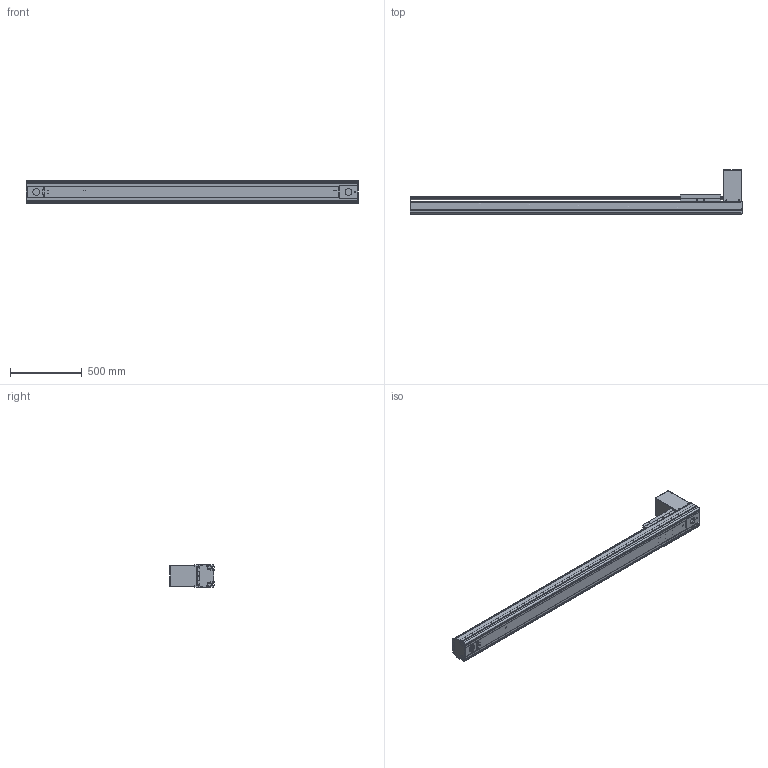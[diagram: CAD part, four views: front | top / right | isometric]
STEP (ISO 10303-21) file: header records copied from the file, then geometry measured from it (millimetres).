
FILE_DESCRIPTION((''),'2;1');
FILE_NAME('BE50G-BT-L19N-H5_IGS_PRT','2017-06-18T',(' '),(''),'PRO/ENGINEER BY PARAMETRIC TECHNOLOGY CORPORATION, 2015030','PRO/ENGINEER BY PARAMETRIC TECHNOLOGY CORPORATION, 2015030','');
FILE_SCHEMA(('CONFIG_CONTROL_DESIGN'));
Products named in the file (1): BE50G-BT-L19N-H5_IGS_PRT
Bounding box: 2320 x 309 x 160 mm (x, y, z)
Volume: 9051752.8 mm3; surface area: 4139166.5 mm2
Topology: 9 solids, 172 shells, 2051 faces, 5829 edges, 3888 vertices
Faces by surface type: cylinder 1049, plane 799, cone 160, sphere 23, torus 20
Entity records: 69880 total; most frequent: CARTESIAN_POINT 15807, DIRECTION 11320, ORIENTED_EDGE 10866, EDGE_CURVE 5755, AXIS2_PLACEMENT_3D 4263, VERTEX_POINT 3888, VECTOR 2794, LINE 2794
